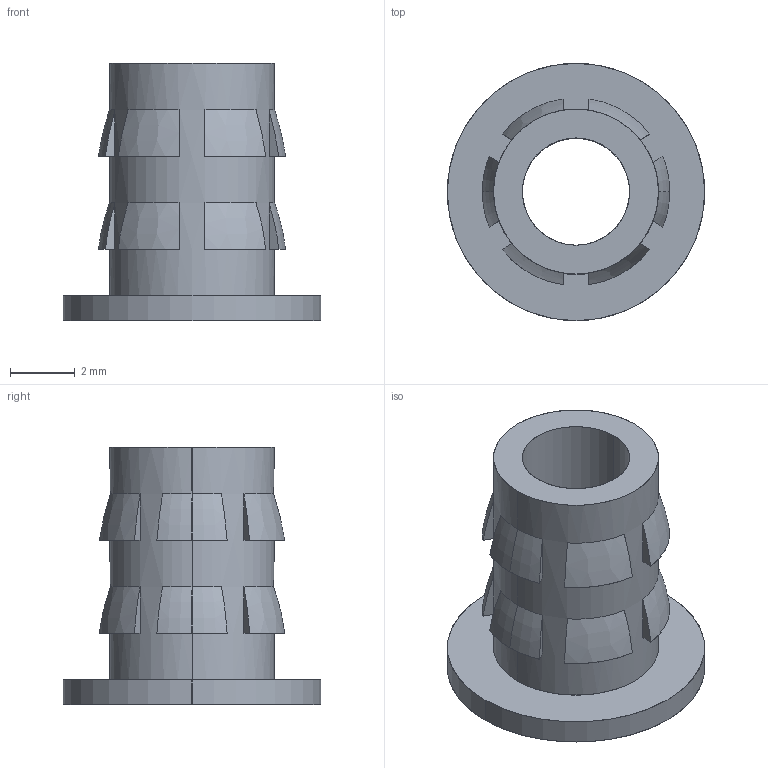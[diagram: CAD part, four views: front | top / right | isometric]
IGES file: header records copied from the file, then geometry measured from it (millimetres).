
Start section: SolidWorks IGES file using analytic representation for surfaces
Global section: file name: G:\thermofab project\INSERT\insert project\INSERT 3D\flanged insert M4.IGS; native system: SolidWorks 2015; preprocessor: SolidWorks 2015; author: Administrator; date: 170809.123124; units: millimetre
Bounding box: 7.92 x 7.92 x 7.92 mm (x, y, z)
Surface area: 312.6 mm2 (no closed solid volume)
Topology: 0 solids, 0 shells, 63 faces, 544 edges, 544 vertices
Faces by surface type: bspline 55, revolution 8
